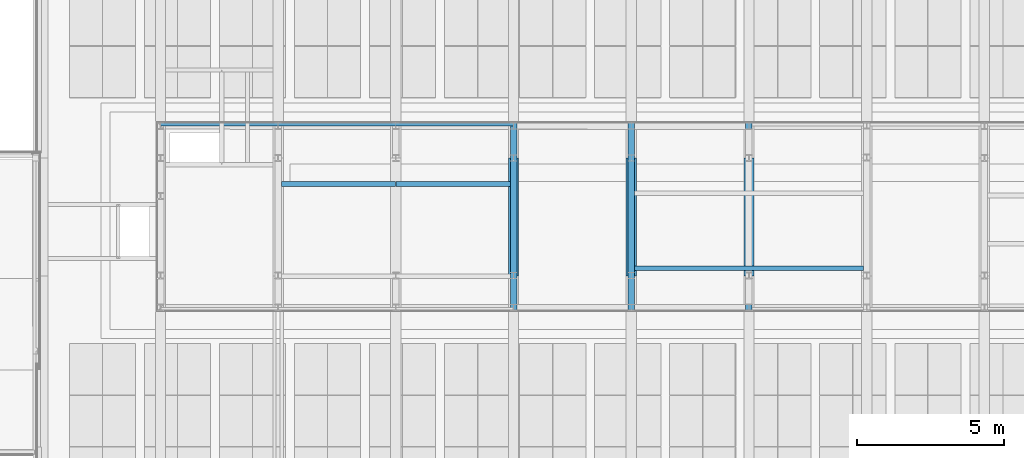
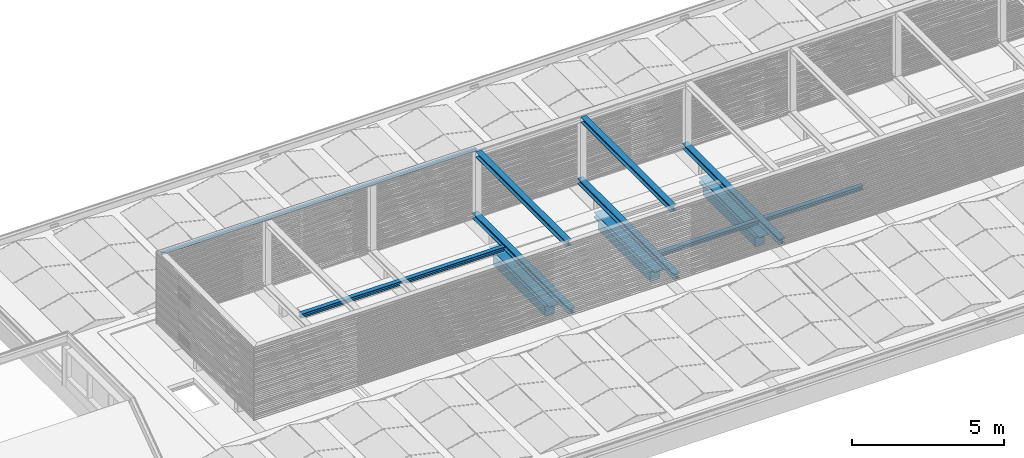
# One storey, part 9 of 63: 11 beams.
"""IFC2X3 building model written with IfcOpenShell, lengths in millimetres."""

from ifc_helpers import new_model, entity, si_unit, converted_unit, derived_unit, money_unit, direction, frame, origin_with_axes, place, context, subcontext, project, spatial, faceted_brep, material, type_object, element, save


model = new_model("IFC2X3")

# Units and contexts
model_context = context("Model", 3, precision=0.01, world=origin_with_axes(), true_north=direction((0.0, 1.0)))
body_context = subcontext(model_context, "Body", "Model", "MODEL_VIEW")
ifc_project = project(units=[si_unit("LENGTHUNIT", "METRE", prefix="MILLI"), si_unit("AREAUNIT", "SQUARE_METRE"), si_unit("VOLUMEUNIT", "CUBIC_METRE"), converted_unit("PLANEANGLEUNIT", "DEGREE", entity("IfcPlaneAngleMeasure", 0.0174532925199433), si_unit("PLANEANGLEUNIT", "RADIAN"), dimensions=[0, 0, 0, 0, 0, 0, 0]), money_unit("EUR"), converted_unit("TIMEUNIT", "Year", entity("IfcTimeMeasure", 31557600.0), si_unit("TIMEUNIT", "SECOND"), dimensions=[0, 0, 1, 0, 0, 0, 0]), si_unit("MASSUNIT", "GRAM", prefix="KILO"), si_unit("THERMODYNAMICTEMPERATUREUNIT", "DEGREE_CELSIUS"), si_unit("LUMINOUSINTENSITYUNIT", "LUMEN"), si_unit("ENERGYUNIT", "JOULE", prefix="MEGA"), derived_unit("THERMALCONDUCTANCEUNIT", [(si_unit("POWERUNIT", "WATT"), 1), (si_unit("LENGTHUNIT", "METRE"), -1), (si_unit("THERMODYNAMICTEMPERATUREUNIT", "KELVIN"), -1)]), derived_unit("SPECIFICHEATCAPACITYUNIT", [(si_unit("ENERGYUNIT", "JOULE"), 1), (si_unit("MASSUNIT", "GRAM", prefix="KILO"), -1), (si_unit("THERMODYNAMICTEMPERATUREUNIT", "KELVIN"), -1)]), derived_unit("MASSDENSITYUNIT", [(si_unit("MASSUNIT", "GRAM", prefix="KILO"), 1), (si_unit("VOLUMEUNIT", "CUBIC_METRE"), -1)])], contexts=[model_context])

# Site, building, storey
site_placement = place(None, origin_with_axes())
site = spatial("IfcSite", under=ifc_project, at=site_placement, Name="<site naam>", CompositionType="ELEMENT")
building_placement = place(site_placement, origin_with_axes())
building = spatial("IfcBuilding", under=site, at=building_placement, Name="<Naam gebouw>", CompositionType="ELEMENT")
storey_placement = place(building_placement, frame((0.0, 0.0, 12770.0), z_axis=(0.0, 0.0, 1.0), x_axis=(1.0, 0.0, 0.0)))
storey = spatial("IfcBuildingStorey", under=building, at=storey_placement, Name="04 4e verdieping", CompositionType="ELEMENT", Elevation=12770.0)

# Beams
ifc_material_1 = material(Name="staal C")
beam_type_1 = type_object("IfcBeamType", Name="HEB220 220 x 220", PredefinedType="BEAM")
beam_1_placement = place(storey_placement, frame((28000.00000000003, 13200.00001151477, 444.1514325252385), z_axis=(0.0, 0.0, 1.0), x_axis=(-1.0, 0.0, 0.0)))
element("IfcBeam", 1, at=beam_1_placement, inside=storey, type_object=beam_type_1, material=ifc_material_1, Name="Info_Balk_HEB220", ObjectType="BEAM", context=body_context, shape_type="Brep", body=[
    faceted_brep([(-109.9999999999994, 0.0, 115.5000000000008), (-109.9999999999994, 6400.00001151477, 115.5000000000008), (-109.9999999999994, 6400.00001151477, 99.50000000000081), (-109.9999999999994, 0.0, 99.50000000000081), (109.9999999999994, 0.0, 115.5000000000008), (109.9999999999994, 6400.00001151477, 115.5000000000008), (109.9999999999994, 6400.00001151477, 99.50000000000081), (4.749999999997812, 6400.00001151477, 99.50000000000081), (4.749999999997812, 6400.00001151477, -88.4999999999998), (109.9999999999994, 6400.00001151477, -88.4999999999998), (109.9999999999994, 6400.00001151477, -104.4999999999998), (-109.9999999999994, 6400.00001151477, -104.4999999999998), (-109.9999999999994, 6400.00001151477, -88.4999999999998), (-4.750000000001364, 6400.00001151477, -88.4999999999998), (-4.750000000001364, 6400.00001151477, 99.50000000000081), (-4.750000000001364, 0.0, 99.50000000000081), (-4.750000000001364, 0.0, -88.4999999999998), (-109.9999999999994, 0.0, -88.4999999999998), (-109.9999999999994, 0.0, -104.4999999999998), (109.9999999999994, 0.0, -104.4999999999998), (109.9999999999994, 0.0, -88.4999999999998), (4.750000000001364, 0.0, -88.4999999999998), (4.750000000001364, 0.0, 99.50000000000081), (109.9999999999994, 0.0, 99.50000000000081)], [[[0, 1, 2, 3]], [[4, 5, 1, 0]], [[2, 1, 5, 6, 7, 8, 9, 10, 11, 12, 13, 14]], [[3, 2, 14, 15]], [[4, 0, 3, 15, 16, 17, 18, 19, 20, 21, 22, 23]], [[23, 6, 5, 4]], [[22, 7, 6, 23]], [[21, 8, 7, 22]], [[20, 9, 8, 21]], [[19, 10, 9, 20]], [[18, 11, 10, 19]], [[17, 12, 11, 18]], [[16, 13, 12, 17]], [[15, 14, 13, 16]]]),
])
beam_2_placement = place(storey_placement, frame((28000.00000000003, 12980.00000000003, 3039.88580884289), z_axis=(0.0, 0.0, 1.0), x_axis=(-1.0, 0.0, 0.0)))
element("IfcBeam", 2, at=beam_2_placement, inside=storey, type_object=beam_type_1, material=ifc_material_1, Name="Info_Balk_HEB220", ObjectType="BEAM", context=body_context, shape_type="Brep", body=[
    faceted_brep([(-109.9999999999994, 5960.000000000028, -104.4999999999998), (-109.9999999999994, 4.466669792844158, -104.4999999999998), (-109.9999999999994, 4.466669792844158, -88.4999999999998), (-109.9999999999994, 5960.000000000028, -88.4999999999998), (0.01382329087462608, 0.0, -104.4999999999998), (0.0144063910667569, 4.452261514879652, -104.4999999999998), (109.9999999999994, 5960.000000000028, -104.4999999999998), (109.9999999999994, 0.0, -104.4999999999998), (0.0144063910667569, 4.452261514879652, -88.4999999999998), (-4.750000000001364, 4.4528854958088, -88.4999999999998), (-4.750000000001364, 5960.000000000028, -88.4999999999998), (-4.750000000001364, 5960.000000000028, 99.50000000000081), (-109.9999999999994, 5960.000000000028, 99.50000000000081), (-109.9999999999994, 5960.000000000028, 115.5000000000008), (109.9999999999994, 5960.000000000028, 115.5000000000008), (109.9999999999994, 5960.000000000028, 99.50000000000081), (4.749999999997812, 5960.000000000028, 99.50000000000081), (4.749999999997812, 5960.000000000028, -88.4999999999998), (109.9999999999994, 5960.000000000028, -88.4999999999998), (0.01382329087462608, 0.0, -88.4999999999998), (109.9999999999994, 0.0, -88.4999999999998), (0.01382329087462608, 0.0, 115.5000000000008), (0.01382329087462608, 0.0, 99.50000000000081), (-4.750000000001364, 0.0, 99.50000000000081), (-4.750000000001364, 0.0, -88.4999999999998), (4.750000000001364, 0.0, -88.4999999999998), (4.750000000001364, 0.0, 99.50000000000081), (109.9999999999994, 0.0, 99.50000000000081), (109.9999999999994, 0.0, 115.5000000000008), (-4.750000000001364, 4.4528854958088, 99.50000000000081), (-109.9999999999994, 4.466669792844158, 99.50000000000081), (-109.9999999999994, 4.466669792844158, 115.5000000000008), (0.0144063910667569, 4.452261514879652, 115.5000000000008), (0.0144063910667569, 4.452261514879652, 99.50000000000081)], [[[0, 1, 2, 3]], [[4, 5, 1, 0, 6, 7]], [[8, 9, 2, 1, 5]], [[3, 2, 9, 10]], [[11, 12, 13, 14, 15, 16, 17, 18, 6, 0, 3, 10]], [[5, 4, 19, 8]], [[20, 7, 6, 18]], [[21, 22, 23, 24, 19, 4, 7, 20, 25, 26, 27, 28]], [[8, 19, 24, 9]], [[24, 23, 29, 11, 10, 9]], [[11, 29, 30, 12]], [[12, 30, 31, 13]], [[31, 32, 21, 28, 14, 13]], [[28, 27, 15, 14]], [[27, 26, 16, 15]], [[26, 25, 17, 16]], [[25, 20, 18, 17]], [[33, 22, 21, 32]], [[33, 29, 23, 22]], [[33, 32, 31, 30, 29]]]),
])
beam_3_placement = place(storey_placement, frame((35999.99996569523, 13200.00001151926, 444.1514325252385), z_axis=(0.0, 0.0, 1.0), x_axis=(-1.0, 0.0, 0.0)))
element("IfcBeam", 3, at=beam_3_placement, inside=storey, type_object=beam_type_1, material=ifc_material_1, Name="Info_Balk_HEB220", ObjectType="BEAM", context=body_context, shape_type="Brep", body=[
    faceted_brep([(-109.9999999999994, 0.0, -88.4999999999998), (-109.9999999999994, 4939.528277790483, -88.4999999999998), (-109.9999999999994, 4939.528277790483, -91.49999999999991), (-109.9999999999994, 4863.528277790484, -91.49999999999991), (-109.9999999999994, 4863.528277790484, -104.4999999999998), (-109.9999999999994, 0.0, -104.4999999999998), (-4.750000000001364, 0.0, -88.4999999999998), (-4.750000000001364, 4939.528277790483, -88.4999999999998), (109.9999999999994, 4939.528277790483, -91.49999999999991), (-4.750000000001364, 4939.528277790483, 42.50000000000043), (4.750000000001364, 4939.528277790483, 42.50000000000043), (4.750000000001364, 4939.528277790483, -88.4999999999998), (109.9999999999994, 4939.528277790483, -88.4999999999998), (109.9999999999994, 4863.528277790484, -91.49999999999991), (109.9999999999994, 4863.528277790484, -104.4999999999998), (109.9999999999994, 0.0, -104.4999999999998), (109.9999999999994, 0.0, 99.50000000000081), (109.9999999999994, 0.0, 115.5000000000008), (-109.9999999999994, 0.0, 115.5000000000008), (-109.9999999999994, 0.0, 99.50000000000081), (-4.750000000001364, 0.0, 99.50000000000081), (109.9999999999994, 0.0, -88.4999999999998), (4.750000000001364, 0.0, -88.4999999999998), (4.750000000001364, 0.0, 99.50000000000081), (-4.750000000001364, 4863.528277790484, 42.50000000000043), (-4.750000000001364, 6400.00001151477, 99.50000000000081), (-4.750000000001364, 6400.00001151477, -88.4999999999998), (-4.750000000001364, 4947.528277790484, -88.4999999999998), (-4.750000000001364, 4947.528277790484, 42.50000000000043), (-4.750000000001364, 5023.528277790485, 42.50000000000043), (-4.750000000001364, 5023.528277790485, 55.50000000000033), (-4.750000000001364, 4863.528277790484, 55.50000000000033), (4.750000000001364, 4863.528277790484, 42.50000000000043), (4.750000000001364, 5023.528277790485, 42.50000000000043), (4.750000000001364, 4947.528277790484, 42.50000000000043), (4.750000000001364, 4947.528277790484, -88.4999999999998), (4.750000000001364, 6400.00001151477, -88.4999999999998), (4.750000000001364, 6400.00001151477, 99.50000000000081), (4.750000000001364, 4863.528277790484, 55.50000000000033), (4.750000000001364, 5023.528277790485, 55.50000000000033), (109.9999999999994, 6400.00001151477, 99.50000000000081), (109.9999999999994, 6400.00001151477, 115.5000000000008), (-109.9999999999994, 6400.00001151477, 115.5000000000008), (-109.9999999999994, 6400.00001151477, 99.50000000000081), (109.9999999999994, 6400.00001151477, -88.4999999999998), (109.9999999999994, 6400.00001151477, -104.4999999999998), (-109.9999999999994, 6400.00001151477, -104.4999999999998), (-109.9999999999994, 6400.00001151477, -88.4999999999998), (-109.9999999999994, 4947.528277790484, -88.4999999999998), (-109.9999999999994, 4947.528277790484, -91.49999999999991), (109.9999999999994, 4947.528277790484, -91.49999999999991), (109.9999999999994, 4947.528277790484, -88.4999999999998), (109.9999999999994, 5023.528277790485, -91.49999999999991), (109.9999999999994, 5023.528277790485, -104.4999999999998), (-109.9999999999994, 5023.528277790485, -104.4999999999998), (-109.9999999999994, 5023.528277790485, -91.49999999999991)], [[[0, 1, 2, 3, 4, 5]], [[6, 7, 1, 0]], [[8, 2, 1, 7, 9, 10, 11, 12]], [[13, 3, 2, 8]], [[14, 4, 3, 13]], [[5, 4, 14, 15]], [[16, 17, 18, 19, 20, 6, 0, 5, 15, 21, 22, 23]], [[24, 9, 7, 6, 20, 25, 26, 27, 28, 29, 30, 31]], [[10, 9, 24, 32]], [[33, 34, 35, 36, 37, 23, 22, 11, 10, 32, 38, 39]], [[21, 12, 11, 22]], [[13, 8, 12, 21, 15, 14]], [[17, 16, 40, 41]], [[18, 17, 41, 42]], [[19, 18, 42, 43]], [[20, 19, 43, 25]], [[16, 23, 37, 40]], [[25, 43, 42, 41, 40, 37, 36, 44, 45, 46, 47, 26]], [[47, 48, 27, 26]], [[28, 27, 48, 49, 50, 51, 35, 34]], [[33, 29, 28, 34]], [[39, 30, 29, 33]], [[38, 31, 30, 39]], [[32, 24, 31, 38]], [[36, 35, 51, 44]], [[50, 52, 53, 45, 44, 51]], [[45, 53, 54, 46]], [[55, 49, 48, 47, 46, 54]], [[50, 49, 55, 52]], [[52, 55, 54, 53]]]),
])
beam_4_placement = place(storey_placement, frame((31999.99972515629, 13200.00001151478, 444.1514325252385), z_axis=(0.0, 0.0, 1.0), x_axis=(-1.0, 0.0, 0.0)))
element("IfcBeam", 4, at=beam_4_placement, inside=storey, type_object=beam_type_1, material=ifc_material_1, Name="Info_Balk_HEB220", ObjectType="BEAM", context=body_context, shape_type="Brep", body=[
    faceted_brep([(-109.9999999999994, 0.0, 115.5000000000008), (-109.9999999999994, 6400.00001151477, 115.5000000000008), (-109.9999999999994, 6400.00001151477, 99.50000000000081), (-109.9999999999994, 0.0, 99.50000000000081), (109.9999999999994, 0.0, 115.5000000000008), (109.9999999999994, 6400.00001151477, 115.5000000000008), (109.9999999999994, 6400.00001151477, 99.50000000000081), (4.749999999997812, 6400.00001151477, 99.50000000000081), (4.749999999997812, 6400.00001151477, -88.4999999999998), (109.9999999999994, 6400.00001151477, -88.4999999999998), (109.9999999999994, 6400.00001151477, -104.4999999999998), (-109.9999999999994, 6400.00001151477, -104.4999999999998), (-109.9999999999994, 6400.00001151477, -88.4999999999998), (-4.750000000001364, 6400.00001151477, -88.4999999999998), (-4.750000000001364, 6400.00001151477, 99.50000000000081), (-4.750000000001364, 0.0, 99.50000000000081), (-4.750000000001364, 0.0, -88.4999999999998), (-109.9999999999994, 0.0, -88.4999999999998), (-109.9999999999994, 0.0, -104.4999999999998), (109.9999999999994, 0.0, -104.4999999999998), (109.9999999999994, 0.0, -88.4999999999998), (4.750000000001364, 0.0, -88.4999999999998), (4.750000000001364, 0.0, 99.50000000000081), (109.9999999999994, 0.0, 99.50000000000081)], [[[0, 1, 2, 3]], [[4, 5, 1, 0]], [[2, 1, 5, 6, 7, 8, 9, 10, 11, 12, 13, 14]], [[3, 2, 14, 15]], [[4, 0, 3, 15, 16, 17, 18, 19, 20, 21, 22, 23]], [[23, 6, 5, 4]], [[22, 7, 6, 23]], [[21, 8, 7, 22]], [[20, 9, 8, 21]], [[19, 10, 9, 20]], [[18, 11, 10, 19]], [[17, 12, 11, 18]], [[16, 13, 12, 17]], [[15, 14, 13, 16]]]),
])
beam_5_placement = place(storey_placement, frame((31999.99972515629, 12980.00000000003, 3039.88580884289), z_axis=(0.0, 0.0, 1.0), x_axis=(-1.0, 0.0, 0.0)))
element("IfcBeam", 5, at=beam_5_placement, inside=storey, type_object=beam_type_1, material=ifc_material_1, Name="Info_Balk_HEB220", ObjectType="BEAM", context=body_context, shape_type="Brep", body=[
    faceted_brep([(-109.9999999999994, 0.0, 115.5000000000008), (-109.9999999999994, 5960.000000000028, 115.5000000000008), (-109.9999999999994, 5960.000000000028, 99.50000000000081), (-109.9999999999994, 0.0, 99.50000000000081), (109.9999999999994, 0.0, 115.5000000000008), (109.9999999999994, 5960.000000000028, 115.5000000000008), (109.9999999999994, 5960.000000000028, 99.50000000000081), (4.749999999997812, 5960.000000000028, 99.50000000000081), (4.749999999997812, 5960.000000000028, -88.4999999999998), (109.9999999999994, 5960.000000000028, -88.4999999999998), (109.9999999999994, 5960.000000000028, -104.4999999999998), (-109.9999999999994, 5960.000000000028, -104.4999999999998), (-109.9999999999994, 5960.000000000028, -88.4999999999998), (-4.750000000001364, 5960.000000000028, -88.4999999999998), (-4.750000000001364, 5960.000000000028, 99.50000000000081), (-4.750000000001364, 0.0, 99.50000000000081), (-4.750000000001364, 0.0, -88.4999999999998), (-109.9999999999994, 0.0, -88.4999999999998), (-109.9999999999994, 0.0, -104.4999999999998), (109.9999999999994, 0.0, -104.4999999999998), (109.9999999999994, 0.0, -88.4999999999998), (4.750000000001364, 0.0, -88.4999999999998), (4.750000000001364, 0.0, 99.50000000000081), (109.9999999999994, 0.0, 99.50000000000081)], [[[0, 1, 2, 3]], [[4, 5, 1, 0]], [[2, 1, 5, 6, 7, 8, 9, 10, 11, 12, 13, 14]], [[3, 2, 14, 15]], [[4, 0, 3, 15, 16, 17, 18, 19, 20, 21, 22, 23]], [[23, 6, 5, 4]], [[22, 7, 6, 23]], [[21, 8, 7, 22]], [[20, 9, 8, 21]], [[19, 10, 9, 20]], [[18, 11, 10, 19]], [[17, 12, 11, 18]], [[16, 13, 12, 17]], [[15, 14, 13, 16]]]),
])
ifc_material_2 = material(Name="beton_gewapend C")
beam_type_2 = type_object("IfcBeamType", Name="beton_gewapend C 350 x 550", PredefinedType="BEAM")
beam_6_placement = place(storey_placement, frame((36000.00000000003, 12000.00000000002, -59.99999999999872), z_axis=(0.0, 0.0, 1.0), x_axis=(-1.0, 0.0, 0.0)))
element("IfcBeam", 6, at=beam_6_placement, inside=storey, type_object=beam_type_2, material=ifc_material_2, Name="28_Balk_beton_gewapend", ObjectType="BEAM", context=body_context, shape_type="Brep", body=[
    faceted_brep([(174.9999999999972, 0.0, -159.9999853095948), (174.9999999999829, 3725.0, -159.9999853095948), (-175.0000000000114, 3725.0, -159.9999853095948), (-174.9999999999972, 0.0, -159.9999853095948), (174.9999999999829, 275.0000000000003, -550.0000000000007), (174.9999999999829, 3725.0, -550.0000000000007), (174.9999999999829, 0.0, -220.0000000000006), (174.9999999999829, 275.0000000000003, -220.0000000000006), (-175.0000000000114, 3725.0, -550.0000000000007), (-175.0000000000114, 275.0000000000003, -550.0000000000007), (-175.0000000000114, 275.0000000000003, -220.0000000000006), (-175.0000000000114, 0.0, -220.0000000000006)], [[[0, 1, 2, 3]], [[4, 5, 1, 0, 6, 7]], [[5, 8, 2, 1]], [[3, 2, 8, 9, 10, 11]], [[3, 11, 6, 0]], [[9, 8, 5, 4]], [[7, 6, 11, 10]], [[7, 10, 9, 4]]]),
    faceted_brep([(-174.9999999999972, 4005.546149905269, 0.0), (-174.9999999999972, 4005.546149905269, -9.99998530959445), (-174.9999999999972, 0.0, -9.99998530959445), (-174.9999999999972, 0.0, 0.0), (174.9999999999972, 4005.546149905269, 0.0), (174.9999999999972, 4005.546149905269, -9.99998530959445), (174.9999999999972, 0.0, -9.99998530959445), (174.9999999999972, 0.0, 0.0)], [[[0, 1, 2, 3]], [[4, 5, 1, 0]], [[5, 6, 2, 1]], [[3, 2, 6, 7]], [[3, 7, 4, 0]], [[7, 6, 5, 4]]]),
])
beam_7_placement = place(storey_placement, frame((32000.00000000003, 12000.00000000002, -59.99999999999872), z_axis=(0.0, 0.0, 1.0), x_axis=(-1.0, 0.0, 0.0)))
element("IfcBeam", 7, at=beam_7_placement, inside=storey, type_object=beam_type_2, material=ifc_material_2, Name="28_Balk_beton_gewapend", ObjectType="BEAM", context=body_context, shape_type="Brep", body=[
    faceted_brep([(175.0000000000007, 0.0, -159.9999853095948), (174.9999999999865, 3725.0, -159.9999853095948), (-175.0000000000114, 3725.0, -159.9999853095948), (-174.9999999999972, 0.0, -159.9999853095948), (174.9999999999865, 275.0000000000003, -550.0000000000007), (174.9999999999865, 3725.0, -550.0000000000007), (174.9999999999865, 0.0, -220.0000000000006), (174.9999999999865, 275.0000000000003, -220.0000000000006), (-175.0000000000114, 3725.0, -550.0000000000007), (-175.0000000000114, 275.0000000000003, -550.0000000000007), (-175.0000000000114, 275.0000000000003, -220.0000000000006), (-175.0000000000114, 0.0, -220.0000000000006)], [[[0, 1, 2, 3]], [[4, 5, 1, 0, 6, 7]], [[5, 8, 2, 1]], [[3, 2, 8, 9, 10, 11]], [[3, 11, 6, 0]], [[9, 8, 5, 4]], [[7, 6, 11, 10]], [[7, 10, 9, 4]]]),
    faceted_brep([(-174.9999999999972, 4005.546149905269, 0.0), (-174.9999999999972, 4005.546149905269, -9.99998530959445), (-174.9999999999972, 0.0, -9.99998530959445), (-174.9999999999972, 0.0, 0.0), (175.0000000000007, 4005.546149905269, 0.0), (175.0000000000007, 4005.546149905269, -9.99998530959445), (175.0000000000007, 0.0, -9.99998530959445), (175.0000000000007, 0.0, 0.0)], [[[0, 1, 2, 3]], [[4, 5, 1, 0]], [[5, 6, 2, 1]], [[3, 2, 6, 7]], [[3, 7, 4, 0]], [[7, 6, 5, 4]]]),
])
beam_8_placement = place(storey_placement, frame((28000.00000000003, 12000.00000000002, -59.99999999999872), z_axis=(0.0, 0.0, 1.0), x_axis=(-1.0, 0.0, 0.0)))
element("IfcBeam", 8, at=beam_8_placement, inside=storey, type_object=beam_type_2, material=ifc_material_2, Name="28_Balk_beton_gewapend", ObjectType="BEAM", context=body_context, shape_type="Brep", body=[
    faceted_brep([(175.0000000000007, 0.0, -159.9999853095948), (174.9999999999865, 3725.0, -159.9999853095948), (-175.0000000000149, 3725.0, -159.9999853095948), (-175.0000000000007, 0.0, -159.9999853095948), (174.9999999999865, 275.0000000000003, -550.0000000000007), (174.9999999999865, 3725.0, -550.0000000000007), (174.9999999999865, 0.0, -220.0000000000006), (174.9999999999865, 275.0000000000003, -220.0000000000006), (-175.0000000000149, 3725.0, -550.0000000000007), (-175.0000000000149, 275.0000000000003, -550.0000000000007), (-175.0000000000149, 275.0000000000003, -220.0000000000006), (-175.0000000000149, 0.0, -220.0000000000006)], [[[0, 1, 2, 3]], [[4, 5, 1, 0, 6, 7]], [[5, 8, 2, 1]], [[3, 2, 8, 9, 10, 11]], [[3, 11, 6, 0]], [[9, 8, 5, 4]], [[7, 6, 11, 10]], [[7, 10, 9, 4]]]),
    faceted_brep([(-175.0000000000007, 4005.546149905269, 0.0), (-175.0000000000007, 4005.546149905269, -9.99998530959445), (-175.0000000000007, 0.0, -9.99998530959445), (-175.0000000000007, 0.0, 0.0), (175.0000000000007, 4005.546149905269, 0.0), (175.0000000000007, 4005.546149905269, -9.99998530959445), (175.0000000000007, 0.0, -9.99998530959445), (175.0000000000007, 0.0, 0.0)], [[[0, 1, 2, 3]], [[4, 5, 1, 0]], [[5, 6, 2, 1]], [[3, 2, 6, 7]], [[3, 7, 4, 0]], [[7, 6, 5, 4]]]),
])
beam_type_3 = type_object("IfcBeamType", Name="HEB160 160 x 160", PredefinedType="BEAM")
beam_9_placement = place(storey_placement, frame((20110.00000000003, 11116.47173372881, 414.1514325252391), z_axis=(0.0, 0.0, 1.0), x_axis=(0.0, -1.0, 0.0)))
element("IfcBeam", 9, at=beam_9_placement, inside=storey, type_object=beam_type_3, material=ifc_material_1, Name="Info_Balk_HEB160", ObjectType="BEAM", context=body_context, shape_type="Brep", body=[
    faceted_brep([(80.00000000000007, 0.0, 85.49999999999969), (79.9999999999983, 3885.249972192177, 85.49999999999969), (-80.00000000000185, 3885.249972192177, 85.49999999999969), (-80.00000000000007, 0.0, 85.49999999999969), (80.00000000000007, 0.0, 72.49999999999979), (79.9999999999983, 3885.249972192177, 72.49999999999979), (-4.000000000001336, 3885.249972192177, 72.49999999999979), (-80.00000000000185, 3885.249972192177, 72.49999999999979), (3.999999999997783, 3885.249972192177, 72.49999999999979), (3.999999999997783, 3885.249972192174, -58.50000000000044), (-4.000000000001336, 3885.249972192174, -58.50000000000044), (-80.00000000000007, 0.0, 72.49999999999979), (-3.999999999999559, 0.0, 72.49999999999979), (-3.999999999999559, 0.0, -61.50000000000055), (-80.00000000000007, 0.0, -61.50000000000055), (-80.00000000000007, 0.0, -74.50000000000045), (80.00000000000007, 0.0, -74.50000000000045), (80.00000000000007, 0.0, -61.50000000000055), (3.999999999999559, 0.0, -61.50000000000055), (3.999999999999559, 0.0, 72.49999999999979), (3.999999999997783, 3779.999972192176, -58.50000000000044), (3.999999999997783, 3779.999972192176, -61.50000000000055), (-4.000000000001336, 3779.999972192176, -58.50000000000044), (-4.000000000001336, 3779.999972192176, -61.50000000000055), (-80.00000000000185, 3779.999972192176, -61.50000000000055), (-80.00000000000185, 3779.999972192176, -74.50000000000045), (80.00000000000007, 3779.999972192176, -74.50000000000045), (79.9999999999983, 3779.999972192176, -61.50000000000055)], [[[0, 1, 2, 3]], [[4, 5, 1, 0]], [[6, 7, 2, 1, 5, 8, 9, 10]], [[3, 2, 7, 11]], [[4, 0, 3, 11, 12, 13, 14, 15, 16, 17, 18, 19]], [[19, 8, 5, 4]], [[11, 7, 6, 12]], [[20, 9, 8, 19, 18, 21]], [[20, 22, 10, 9]], [[10, 22, 23, 13, 12, 6]], [[13, 23, 24, 14]], [[14, 24, 25, 15]], [[15, 25, 26, 16]], [[16, 26, 27, 17]], [[17, 27, 21, 18]], [[26, 25, 24, 23, 22, 20, 21, 27]]]),
    faceted_brep([(-80.00000000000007, 7780.000000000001, -74.50000000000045), (-80.00000000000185, 3999.999972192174, -74.50000000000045), (-80.00000000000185, 3999.999972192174, -61.50000000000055), (-80.00000000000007, 7780.000000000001, -61.50000000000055), (80.00000000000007, 7780.000000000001, -74.50000000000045), (79.9999999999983, 3999.999972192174, -74.50000000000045), (-4.000000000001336, 3999.999972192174, -58.50000000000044), (-4.000000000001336, 3999.999972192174, -61.50000000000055), (79.9999999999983, 3999.999972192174, -61.50000000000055), (3.999999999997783, 3999.999972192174, -61.50000000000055), (3.999999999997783, 3999.999972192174, -58.50000000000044), (-4.000000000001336, 7780.000000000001, -61.50000000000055), (-4.000000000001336, 7780.000000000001, 72.49999999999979), (-80.00000000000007, 7780.000000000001, 72.49999999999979), (-80.00000000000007, 7780.000000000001, 85.49999999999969), (80.00000000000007, 7780.000000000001, 85.49999999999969), (80.00000000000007, 7780.000000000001, 72.49999999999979), (3.999999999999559, 7780.000000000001, 72.49999999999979), (3.999999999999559, 7780.000000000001, -61.50000000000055), (80.00000000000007, 7780.000000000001, -61.50000000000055), (-4.000000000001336, 3894.749972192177, -58.50000000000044), (-4.000000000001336, 3894.749972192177, 72.49999999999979), (3.999999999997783, 3894.749972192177, -58.50000000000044), (3.999999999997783, 3894.749972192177, 72.49999999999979), (-80.00000000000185, 3894.749972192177, 72.49999999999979), (-80.00000000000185, 3894.749972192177, 85.49999999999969), (79.9999999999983, 3894.749972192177, 85.49999999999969), (79.9999999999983, 3894.749972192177, 72.49999999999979)], [[[0, 1, 2, 3]], [[4, 5, 1, 0]], [[6, 7, 2, 1, 5, 8, 9, 10]], [[3, 2, 7, 11]], [[12, 13, 14, 15, 16, 17, 18, 19, 4, 0, 3, 11]], [[19, 8, 5, 4]], [[6, 20, 21, 12, 11, 7]], [[18, 9, 8, 19]], [[22, 10, 9, 18, 17, 23]], [[22, 20, 6, 10]], [[12, 21, 24, 13]], [[13, 24, 25, 14]], [[14, 25, 26, 15]], [[15, 26, 27, 16]], [[16, 27, 23, 17]], [[27, 26, 25, 24, 21, 20, 22, 23]]]),
])
beam_10_placement = place(storey_placement, frame((32109.99972515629, 8256.471733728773, 414.1514325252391), z_axis=(0.0, 0.0, 1.0), x_axis=(0.0, -1.0, 0.0)))
element("IfcBeam", 10, at=beam_10_placement, inside=storey, type_object=beam_type_3, material=ifc_material_1, Name="Info_Balk_HEB160", ObjectType="BEAM", context=body_context, shape_type="Brep", body=[
    faceted_brep([(-80.00000000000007, 0.0, 85.49999999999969), (-80.00000000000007, 7780.000000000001, 85.49999999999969), (-80.00000000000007, 7780.000000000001, 72.49999999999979), (-80.00000000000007, 0.0, 72.49999999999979), (80.00000000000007, 0.0, 85.49999999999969), (80.00000000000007, 7780.000000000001, 85.49999999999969), (80.00000000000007, 7780.000000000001, 72.49999999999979), (3.999999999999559, 7780.000000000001, 72.49999999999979), (3.999999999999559, 7780.000000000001, -61.50000000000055), (80.00000000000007, 7780.000000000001, -61.50000000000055), (80.00000000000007, 7780.000000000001, -74.50000000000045), (-80.00000000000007, 7780.000000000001, -74.50000000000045), (-80.00000000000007, 7780.000000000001, -61.50000000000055), (-4.000000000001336, 7780.000000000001, -61.50000000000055), (-4.000000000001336, 7780.000000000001, 72.49999999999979), (-3.999999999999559, 0.0, 72.49999999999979), (-3.999999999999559, 0.0, -61.50000000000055), (-80.00000000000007, 0.0, -61.50000000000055), (-80.00000000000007, 0.0, -74.50000000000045), (80.00000000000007, 0.0, -74.50000000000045), (80.00000000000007, 0.0, -61.50000000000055), (3.999999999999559, 0.0, -61.50000000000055), (3.999999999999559, 0.0, 72.49999999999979), (80.00000000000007, 0.0, 72.49999999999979)], [[[0, 1, 2, 3]], [[4, 5, 1, 0]], [[2, 1, 5, 6, 7, 8, 9, 10, 11, 12, 13, 14]], [[3, 2, 14, 15]], [[4, 0, 3, 15, 16, 17, 18, 19, 20, 21, 22, 23]], [[23, 6, 5, 4]], [[22, 7, 6, 23]], [[21, 8, 7, 22]], [[20, 9, 8, 21]], [[19, 10, 9, 20]], [[18, 11, 10, 19]], [[17, 12, 11, 18]], [[16, 13, 12, 17]], [[15, 14, 13, 16]]]),
])
beam_type_4 = type_object("IfcBeamType", Name="RHS100X100X5 100 x 100", PredefinedType="BEAM")
beam_11_placement = place(storey_placement, frame((28000.00000000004, 13134.00000042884, 3139.651432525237), z_axis=(0.0, 0.0, 1.0), x_axis=(0.000130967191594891, 0.9999999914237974, 0.0)))
element("IfcBeam", 11, at=beam_11_placement, inside=storey, type_object=beam_type_4, material=ifc_material_1, Name="Info_Balk_RHS100X100X5", ObjectType="BEAM", context=body_context, shape_type="Brep", body=[
    faceted_brep([(-50.00000000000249, 8004.743520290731, -50.00000000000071), (-50.00000000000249, 11995.25010287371, -50.00000000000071), (48.42901576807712, 11995.25010287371, -50.00000000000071), (48.44279923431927, 11890.00644638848, -50.00000000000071), (49.99999999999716, 11890.00665033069, -50.00000000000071), (49.99999999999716, 8110.006617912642, -50.00000000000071), (48.9378552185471, 8110.006478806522, -50.00000000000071), (48.95163951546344, 8004.756479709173, -50.00000000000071), (-50.00000000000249, 4.743451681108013, 50.00000000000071), (-50.00000000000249, 11995.25010287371, 50.00000000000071), (-50.00000000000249, 8004.743520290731, 15.73437631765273), (-50.00000000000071, 7995.24352020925, 15.73437631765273), (-50.00000000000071, 7995.24352020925, -50.00000000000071), (-50.00000000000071, 4004.743513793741, -50.00000000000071), (-50.00000000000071, 4004.743513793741, 15.73437631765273), (-50.00000000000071, 3995.243513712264, 15.73437631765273), (-50.00000000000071, 3995.243513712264, -50.00000000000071), (-50.00000000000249, 4.743451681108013, -50.00000000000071), (48.42901493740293, 11995.25644548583, 15.73437631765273), (49.99999999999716, 11995.25010287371, 50.00000000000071), (49.99999999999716, 11995.25010287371, 15.73437631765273), (44.99999999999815, 11995.25010287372, 44.99999999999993), (-45.00000000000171, 11995.25010287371, 44.99999999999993), (-45.00000000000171, 11995.25010287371, -44.99999999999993), (44.99999999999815, 11995.25010287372, -44.99999999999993), (48.44279923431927, 11890.00644638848, 15.73437631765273), (49.99999999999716, 11890.00665033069, 15.73437631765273), (49.99999999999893, 110.0065493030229, 50.00000000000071), (49.99999999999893, 110.0065493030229, -50.00000000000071), (49.99999999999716, 3890.006609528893, -50.00000000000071), (49.99999999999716, 3890.006609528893, 15.73437631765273), (49.99999999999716, 4110.006611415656, 15.73437631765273), (49.99999999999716, 4110.006611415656, -50.00000000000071), (49.99999999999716, 7890.006616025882, -50.00000000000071), (49.99999999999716, 7890.006616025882, 15.73437631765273), (49.99999999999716, 8110.006617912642, 15.73437631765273), (48.9378552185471, 8110.006478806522, 15.73437631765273), (48.95163951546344, 8004.756479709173, 15.73437631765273), (-45.00000000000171, 8004.744175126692, 15.73437631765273), (44.99999999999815, 8004.755962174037, 15.73437631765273), (44.99999999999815, 8004.755962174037, -44.99999999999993), (-45.00000000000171, 8004.744175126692, -44.99999999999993), (49.99937704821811, 4.75654831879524, 50.00000000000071), (49.98559275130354, 110.0065474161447, 50.00000000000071), (-45.00000000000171, 7995.244175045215, 15.73437631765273), (48.95288370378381, 7995.256479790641, -50.00000000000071), (-45.00000000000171, 7995.244175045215, -44.99999999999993), (44.99999999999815, 7995.255962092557, -44.99999999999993), (44.99999999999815, 7995.255962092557, 15.73437631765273), (48.95288370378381, 7995.256479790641, 15.73437631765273), (49.47550827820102, 4004.756541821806, -50.00000000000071), (48.96666800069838, 7890.006480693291, -50.00000000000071), (49.46172398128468, 4110.006540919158, -50.00000000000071), (-45.00000000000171, 4004.744168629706, 15.73437631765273), (49.47550827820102, 4004.756541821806, 15.73437631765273), (44.99999999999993, 4004.755955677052, 15.73437631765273), (44.99999999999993, 4004.755955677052, -44.99999999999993), (-45.00000000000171, 4004.744168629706, -44.99999999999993), (-45.00000000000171, 3995.244168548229, 15.73437631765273), (-45.00000000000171, 3995.244168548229, -44.99999999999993), (44.99999999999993, 3995.255955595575, -44.99999999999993), (44.99999999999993, 3995.255955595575, 15.73437631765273), (49.47675246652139, 3995.256541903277, 15.73437631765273), (49.47675246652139, 3995.256541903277, -50.00000000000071), (49.49053676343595, 3890.006542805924, -50.00000000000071), (49.98559275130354, 110.0065474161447, -50.00000000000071), (49.99937704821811, 4.75654831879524, -50.00000000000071), (44.99999999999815, 4.755893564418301, -44.99999999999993), (-45.00000000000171, 4.744106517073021, -44.99999999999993), (-45.00000000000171, 4.744106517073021, 44.99999999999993), (44.99999999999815, 4.755893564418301, 44.99999999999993), (49.49053676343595, 3890.006542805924, 15.73437631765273), (49.46172398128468, 4110.006540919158, 15.73437631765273), (48.96666800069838, 7890.006480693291, 15.73437631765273)], [[[0, 1, 2, 3, 4, 5, 6, 7]], [[8, 9, 1, 0, 10, 11, 12, 13, 14, 15, 16, 17]], [[18, 2, 1, 9, 19, 20], [21, 22, 23, 24]], [[25, 3, 2, 18]], [[4, 3, 25, 26]], [[4, 26, 20, 19, 27, 28, 29, 30, 31, 32, 33, 34, 35, 5]], [[5, 35, 36, 6]], [[7, 6, 36, 37]], [[38, 10, 0, 7, 37, 39, 40, 41]], [[27, 19, 9, 8, 42, 43]], [[44, 11, 10, 38]], [[45, 12, 11, 44, 46, 47, 48, 49]], [[50, 13, 12, 45, 51, 33, 32, 52]], [[53, 14, 13, 50, 54, 55, 56, 57]], [[14, 53, 58, 15]], [[15, 58, 59, 60, 61, 62, 63, 16]], [[17, 16, 63, 64, 29, 28, 65, 66]], [[42, 8, 17, 66], [67, 68, 69, 70]], [[26, 25, 18, 20]], [[69, 22, 21, 70]], [[41, 23, 22, 69, 68, 59, 58, 53, 57, 46, 44, 38]], [[40, 24, 23, 41]], [[70, 21, 24, 40, 39, 48, 47, 56, 55, 61, 60, 67]], [[27, 43, 65, 28]], [[29, 64, 71, 30]], [[55, 54, 72, 31, 30, 71, 62, 61]], [[72, 52, 32, 31]], [[51, 73, 34, 33]], [[37, 36, 35, 34, 73, 49, 48, 39]], [[42, 66, 65, 43]], [[47, 46, 57, 56]], [[45, 49, 73, 51]], [[52, 72, 54, 50]], [[67, 60, 59, 68]], [[63, 62, 71, 64]]]),
])

save(model, "model.ifc")
